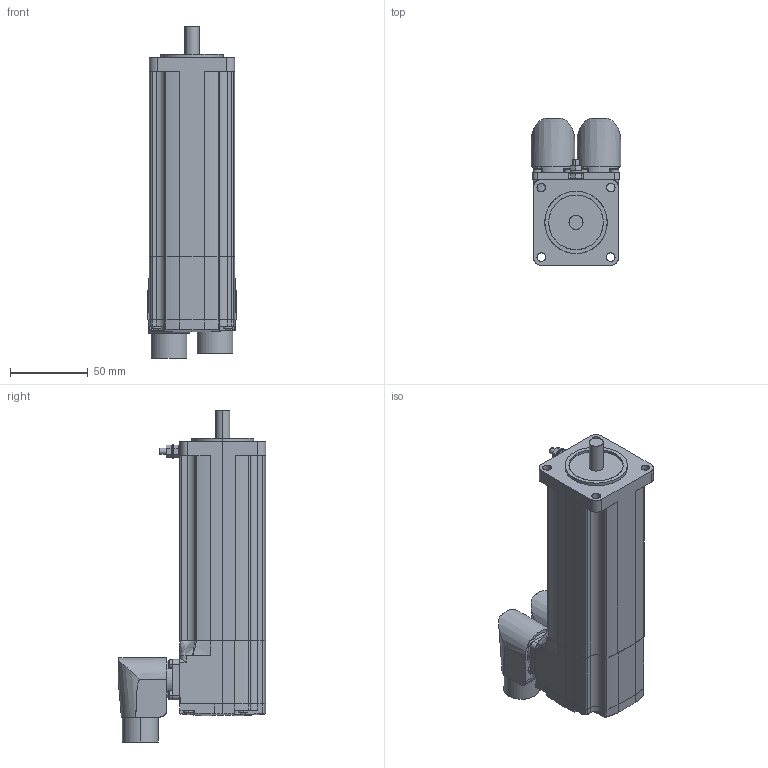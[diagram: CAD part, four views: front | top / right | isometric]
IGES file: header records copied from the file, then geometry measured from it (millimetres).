
Start section: SolidWorks IGES file using analytic representation for surfaces
Global section: file name: C:\PDM\SW-SAP\AA-IGES\SH30553x0xA2100.IGS; native system: SolidWorks 2010; preprocessor: SolidWorks 2010; author: SESA21951; date: 131129.082353; units: millimetre
Bounding box: 57.5 x 94.5 x 212.95 mm (x, y, z)
Surface area: 71331.8 mm2 (no closed solid volume)
Topology: 0 solids, 0 shells, 386 faces, 5815 edges, 5814 vertices
Faces by surface type: bspline 194, revolution 192
